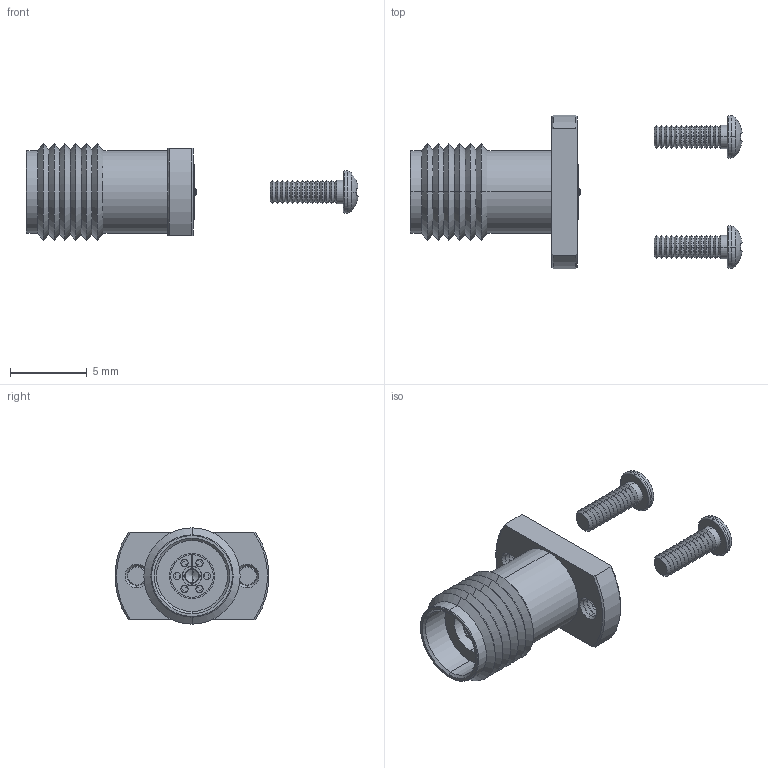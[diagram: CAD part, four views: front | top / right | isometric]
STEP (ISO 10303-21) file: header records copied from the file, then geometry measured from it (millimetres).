
FILE_DESCRIPTION (( 'STEP AP203' ), '1' );
FILE_NAME ('61-2X014-44050D.STEP', '2019-02-20T05:58:37', ( '' ), ( '' ), 'SwSTEP 2.0', 'SolidWorks 2015', '' );
FILE_SCHEMA (( 'CONFIG_CONTROL_DESIGN' ));
Length unit declared in the file: millimetre
Products named in the file (7): 61-20014-44051D; 110-0007-440000A; 61-2X014-44050D; 101-2032-440000B; 101-2033-440000C; 103-1397-226050B; 102-1161-700000C
Assembly tree (7 placements, depth 3):
  61-2X014-44050D
    61-20014-44051D
      101-2032-440000B
      101-2033-440000C
      103-1397-226050B
      102-1161-700000C
    110-0007-440000A  x2
Bounding box: 21.57 x 9.97 x 6.26 mm (x, y, z)
Volume: 261.4 mm3; surface area: 792.3 mm2
Topology: 6 solids, 6 shells, 409 faces, 912 edges, 531 vertices
Faces by surface type: cone 246, cylinder 78, plane 63, torus 18, sphere 4
Entity records: 9926 total; most frequent: CARTESIAN_POINT 1772, DIRECTION 1711, ORIENTED_EDGE 1450, EDGE_CURVE 725, AXIS2_PLACEMENT_3D 718, VERTEX_POINT 427, CIRCLE 382, EDGE_LOOP 362
